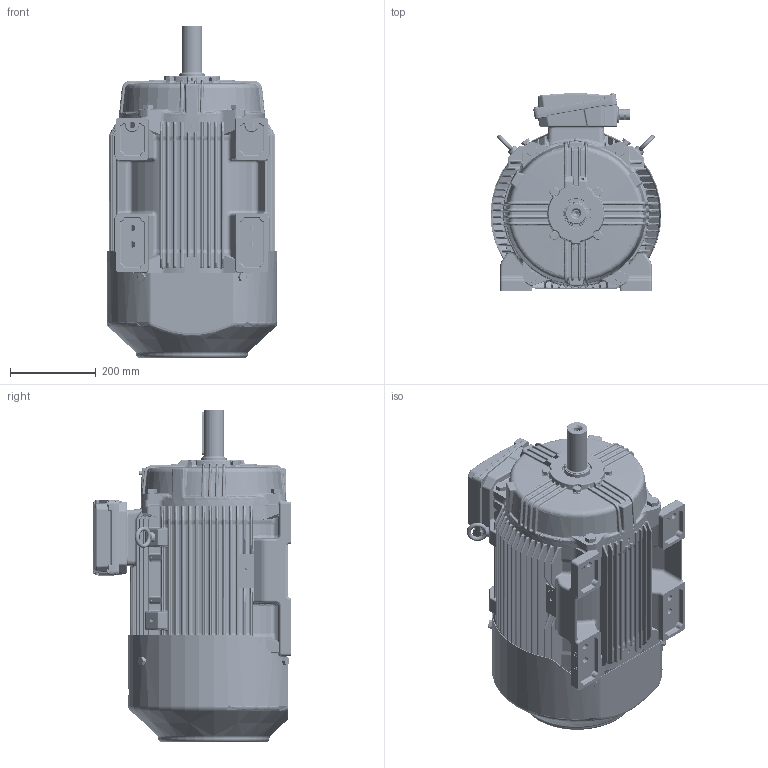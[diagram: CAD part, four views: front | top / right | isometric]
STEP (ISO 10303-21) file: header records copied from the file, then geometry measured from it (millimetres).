
FILE_DESCRIPTION (( 'STEP AP203' ), '1' );
FILE_NAME ('0218000514_RevA.STEP', '2023-04-27T07:23:40', ( '' ), ( '' ), 'SwSTEP 2.0', 'SolidWorks 2021', '' );
FILE_SCHEMA (( 'CONFIG_CONTROL_DESIGN' ));
Products named in the file (1): 0218000514_RevA
Bounding box: 399 x 461.71 x 775 mm (x, y, z)
Volume: 14246358.5 mm3; surface area: 3756733.2 mm2
Topology: 51 solids, 51 shells, 10445 faces, 25920 edges, 15375 vertices
Faces by surface type: bspline 2913, cylinder 2897, plane 2023, torus 1101, cone 1091, sphere 420
Entity records: 419793 total; most frequent: CARTESIAN_POINT 196263, ORIENTED_EDGE 51096, DIRECTION 42298, EDGE_CURVE 25548, AXIS2_PLACEMENT_3D 17750, VERTEX_POINT 15332, EDGE_LOOP 11104, FACE_OUTER_BOUND 10444
